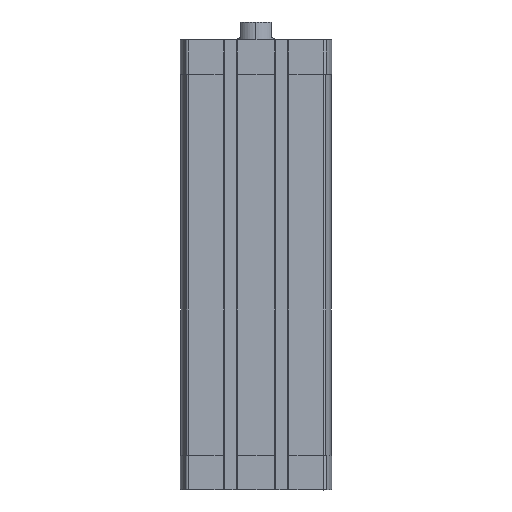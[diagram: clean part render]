
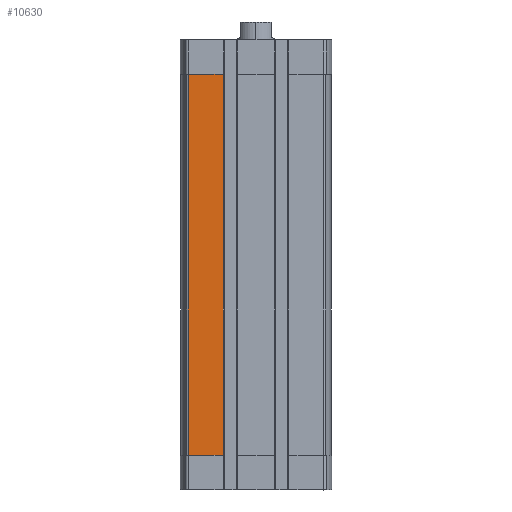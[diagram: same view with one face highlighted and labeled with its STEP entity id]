
A CAD part, left-side view. The second image highlights one B-rep face of the part: STEP entity #10630.
In plain terms, the highlighted planar face has unit normal (-1, 0, 0).
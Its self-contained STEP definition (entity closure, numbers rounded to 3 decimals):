
#151 = CARTESIAN_POINT ( 'NONE',  ( -32.5, 29.291, -180. ) ) ;
#752 = VERTEX_POINT ( 'NONE', #12532 ) ;
#832 = AXIS2_PLACEMENT_3D ( 'NONE', #14170, #1181, #9482 ) ;
#930 = VERTEX_POINT ( 'NONE', #4533 ) ;
#970 = LINE ( 'NONE', #151, #10078 ) ;
#1181 = DIRECTION ( 'NONE',  ( -1., 0., 0. ) ) ;
#1655 = ORIENTED_EDGE ( 'NONE', *, *, #3817, .T. ) ;
#1874 = LINE ( 'NONE', #11174, #14096 ) ;
#2055 = LINE ( 'NONE', #8093, #7974 ) ;
#2335 = PLANE ( 'NONE',  #832 ) ;
#2563 = DIRECTION ( 'NONE',  ( 0., 0., -1. ) ) ;
#3352 = DIRECTION ( 'NONE',  ( 0., -1., 0. ) ) ;
#3817 = EDGE_CURVE ( 'NONE', #930, #14791, #1874, .T. ) ;
#4063 = EDGE_CURVE ( 'NONE', #8356, #752, #2055, .T. ) ;
#4533 = CARTESIAN_POINT ( 'NONE',  ( -32.5, 14.2, -15. ) ) ;
#4569 = ORIENTED_EDGE ( 'NONE', *, *, #13182, .T. ) ;
#4593 = LINE ( 'NONE', #4940, #14377 ) ;
#4940 = CARTESIAN_POINT ( 'NONE',  ( -32.5, 14.2, -180. ) ) ;
#5266 = DIRECTION ( 'NONE',  ( 0., 1., 0. ) ) ;
#5993 = ORIENTED_EDGE ( 'NONE', *, *, #10711, .T. ) ;
#7974 = VECTOR ( 'NONE', #3352, 1000. ) ;
#8093 = CARTESIAN_POINT ( 'NONE',  ( -32.5, 29.291, -180. ) ) ;
#8356 = VERTEX_POINT ( 'NONE', #9434 ) ;
#9434 = CARTESIAN_POINT ( 'NONE',  ( -32.5, 29.291, -180. ) ) ;
#9482 = DIRECTION ( 'NONE',  ( 0., 0., 1. ) ) ;
#10078 = VECTOR ( 'NONE', #2563, 1000. ) ;
#10630 = ADVANCED_FACE ( 'NONE', ( #14730 ), #2335, .T. ) ;
#10711 = EDGE_CURVE ( 'NONE', #752, #930, #4593, .T. ) ;
#11174 = CARTESIAN_POINT ( 'NONE',  ( -32.5, 0., -15. ) ) ;
#11382 = CARTESIAN_POINT ( 'NONE',  ( -32.5, 29.291, -15. ) ) ;
#11958 = DIRECTION ( 'NONE',  ( 0., 0., 1. ) ) ;
#12532 = CARTESIAN_POINT ( 'NONE',  ( -32.5, 14.2, -180. ) ) ;
#13029 = ORIENTED_EDGE ( 'NONE', *, *, #4063, .T. ) ;
#13182 = EDGE_CURVE ( 'NONE', #14791, #8356, #970, .T. ) ;
#14096 = VECTOR ( 'NONE', #5266, 1000. ) ;
#14170 = CARTESIAN_POINT ( 'NONE',  ( -32.5, 29.291, -180. ) ) ;
#14377 = VECTOR ( 'NONE', #11958, 1000. ) ;
#14438 = EDGE_LOOP ( 'NONE', ( #13029, #5993, #1655, #4569 ) ) ;
#14730 = FACE_OUTER_BOUND ( 'NONE', #14438, .T. ) ;
#14791 = VERTEX_POINT ( 'NONE', #11382 ) ;
